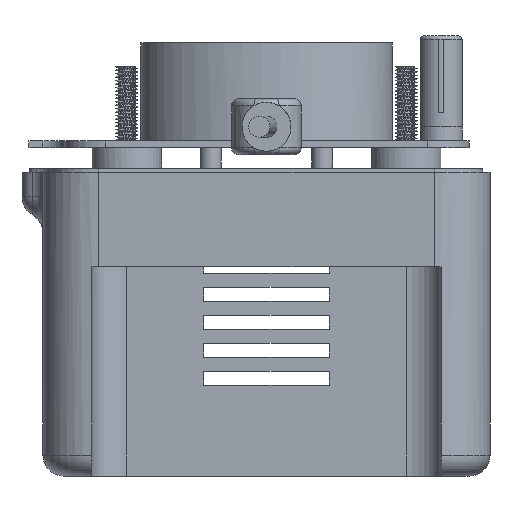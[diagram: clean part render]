
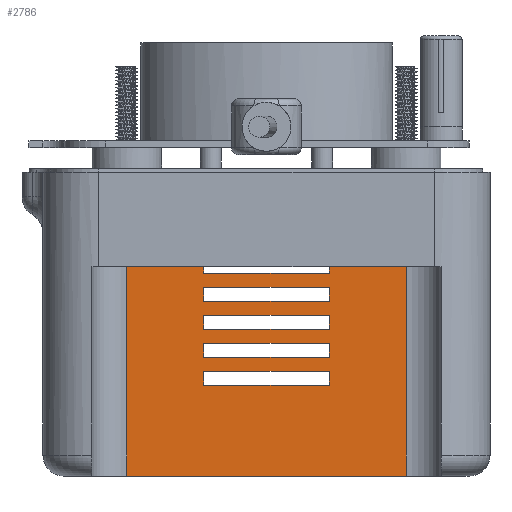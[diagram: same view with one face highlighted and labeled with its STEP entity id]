
A CAD part, left-side view. The second image highlights one B-rep face of the part: STEP entity #2786.
In plain terms, the highlighted planar face has unit normal (-1, 0, 0).
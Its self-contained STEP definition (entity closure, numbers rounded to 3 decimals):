
#2786=ADVANCED_FACE('',(#3652,#3653,#3654,#3655,#3656),#3331,.F.);
#3331=PLANE('',#16253);
#3652=FACE_BOUND('',#4475,.T.);
#3653=FACE_BOUND('',#4476,.T.);
#3654=FACE_BOUND('',#4477,.T.);
#3655=FACE_BOUND('',#4478,.T.);
#3656=FACE_BOUND('',#4479,.T.);
#4475=EDGE_LOOP('',(#8385,#8386,#8387,#8388));
#4476=EDGE_LOOP('',(#8389,#8390,#8391,#8392));
#4477=EDGE_LOOP('',(#8393,#8394,#8395,#8396));
#4478=EDGE_LOOP('',(#8397,#8398,#8399,#8400));
#4479=EDGE_LOOP('',(#8401,#8402,#8403,#8404,#8405,#8406,#8407,#8408));
#8385=ORIENTED_EDGE('',*,*,#12316,.F.);
#8386=ORIENTED_EDGE('',*,*,#12317,.F.);
#8387=ORIENTED_EDGE('',*,*,#12318,.F.);
#8388=ORIENTED_EDGE('',*,*,#12319,.F.);
#8389=ORIENTED_EDGE('',*,*,#12320,.F.);
#8390=ORIENTED_EDGE('',*,*,#12321,.F.);
#8391=ORIENTED_EDGE('',*,*,#12322,.F.);
#8392=ORIENTED_EDGE('',*,*,#12323,.F.);
#8393=ORIENTED_EDGE('',*,*,#12324,.F.);
#8394=ORIENTED_EDGE('',*,*,#12325,.F.);
#8395=ORIENTED_EDGE('',*,*,#12326,.F.);
#8396=ORIENTED_EDGE('',*,*,#12327,.F.);
#8397=ORIENTED_EDGE('',*,*,#12328,.F.);
#8398=ORIENTED_EDGE('',*,*,#12329,.F.);
#8399=ORIENTED_EDGE('',*,*,#12330,.F.);
#8400=ORIENTED_EDGE('',*,*,#12331,.F.);
#8401=ORIENTED_EDGE('',*,*,#12332,.F.);
#8402=ORIENTED_EDGE('',*,*,#12333,.T.);
#8403=ORIENTED_EDGE('',*,*,#12334,.T.);
#8404=ORIENTED_EDGE('',*,*,#12283,.F.);
#8405=ORIENTED_EDGE('',*,*,#12335,.T.);
#8406=ORIENTED_EDGE('',*,*,#12336,.T.);
#8407=ORIENTED_EDGE('',*,*,#12337,.F.);
#8408=ORIENTED_EDGE('',*,*,#12338,.F.);
#10414=VERTEX_POINT('',#59091);
#10415=VERTEX_POINT('',#59093);
#10445=VERTEX_POINT('',#59161);
#10446=VERTEX_POINT('',#59162);
#10447=VERTEX_POINT('',#59164);
#10448=VERTEX_POINT('',#59166);
#10449=VERTEX_POINT('',#59169);
#10450=VERTEX_POINT('',#59170);
#10451=VERTEX_POINT('',#59172);
#10452=VERTEX_POINT('',#59174);
#10453=VERTEX_POINT('',#59177);
#10454=VERTEX_POINT('',#59178);
#10455=VERTEX_POINT('',#59180);
#10456=VERTEX_POINT('',#59182);
#10457=VERTEX_POINT('',#59185);
#10458=VERTEX_POINT('',#59186);
#10459=VERTEX_POINT('',#59188);
#10460=VERTEX_POINT('',#59190);
#10461=VERTEX_POINT('',#59193);
#10462=VERTEX_POINT('',#59194);
#10463=VERTEX_POINT('',#59196);
#10464=VERTEX_POINT('',#59199);
#10465=VERTEX_POINT('',#59201);
#10466=VERTEX_POINT('',#59203);
#12283=EDGE_CURVE('',#10414,#10415,#13611,.T.);
#12316=EDGE_CURVE('',#10445,#10446,#13633,.T.);
#12317=EDGE_CURVE('',#10447,#10445,#13634,.T.);
#12318=EDGE_CURVE('',#10448,#10447,#13635,.T.);
#12319=EDGE_CURVE('',#10446,#10448,#13636,.T.);
#12320=EDGE_CURVE('',#10449,#10450,#13637,.T.);
#12321=EDGE_CURVE('',#10451,#10449,#13638,.T.);
#12322=EDGE_CURVE('',#10452,#10451,#13639,.T.);
#12323=EDGE_CURVE('',#10450,#10452,#13640,.T.);
#12324=EDGE_CURVE('',#10453,#10454,#13641,.T.);
#12325=EDGE_CURVE('',#10455,#10453,#13642,.T.);
#12326=EDGE_CURVE('',#10456,#10455,#13643,.T.);
#12327=EDGE_CURVE('',#10454,#10456,#13644,.T.);
#12328=EDGE_CURVE('',#10457,#10458,#13645,.T.);
#12329=EDGE_CURVE('',#10459,#10457,#13646,.T.);
#12330=EDGE_CURVE('',#10460,#10459,#13647,.T.);
#12331=EDGE_CURVE('',#10458,#10460,#13648,.T.);
#12332=EDGE_CURVE('',#10461,#10462,#13649,.T.);
#12333=EDGE_CURVE('',#10461,#10463,#13650,.T.);
#12334=EDGE_CURVE('',#10463,#10415,#13651,.T.);
#12335=EDGE_CURVE('',#10414,#10464,#13652,.T.);
#12336=EDGE_CURVE('',#10464,#10465,#13653,.T.);
#12337=EDGE_CURVE('',#10466,#10465,#13654,.T.);
#12338=EDGE_CURVE('',#10462,#10466,#13655,.T.);
#13611=LINE('',#59092,#14829);
#13633=LINE('',#59160,#14851);
#13634=LINE('',#59163,#14852);
#13635=LINE('',#59165,#14853);
#13636=LINE('',#59167,#14854);
#13637=LINE('',#59168,#14855);
#13638=LINE('',#59171,#14856);
#13639=LINE('',#59173,#14857);
#13640=LINE('',#59175,#14858);
#13641=LINE('',#59176,#14859);
#13642=LINE('',#59179,#14860);
#13643=LINE('',#59181,#14861);
#13644=LINE('',#59183,#14862);
#13645=LINE('',#59184,#14863);
#13646=LINE('',#59187,#14864);
#13647=LINE('',#59189,#14865);
#13648=LINE('',#59191,#14866);
#13649=LINE('',#59192,#14867);
#13650=LINE('',#59195,#14868);
#13651=LINE('',#59197,#14869);
#13652=LINE('',#59198,#14870);
#13653=LINE('',#59200,#14871);
#13654=LINE('',#59202,#14872);
#13655=LINE('',#59204,#14873);
#14829=VECTOR('',#19629,1.);
#14851=VECTOR('',#19683,1.);
#14852=VECTOR('',#19684,1.);
#14853=VECTOR('',#19685,1.);
#14854=VECTOR('',#19686,1.);
#14855=VECTOR('',#19687,1.);
#14856=VECTOR('',#19688,1.);
#14857=VECTOR('',#19689,1.);
#14858=VECTOR('',#19690,1.);
#14859=VECTOR('',#19691,1.);
#14860=VECTOR('',#19692,1.);
#14861=VECTOR('',#19693,1.);
#14862=VECTOR('',#19694,1.);
#14863=VECTOR('',#19695,1.);
#14864=VECTOR('',#19696,1.);
#14865=VECTOR('',#19697,1.);
#14866=VECTOR('',#19698,1.);
#14867=VECTOR('',#19699,1.);
#14868=VECTOR('',#19700,1.);
#14869=VECTOR('',#19701,1.);
#14870=VECTOR('',#19702,1.);
#14871=VECTOR('',#19703,1.);
#14872=VECTOR('',#19704,1.);
#14873=VECTOR('',#19705,1.);
#16253=AXIS2_PLACEMENT_3D('',#59205,#19706,#19707);
#19629=DIRECTION('',(0.,1.,0.));
#19683=DIRECTION('',(0.,0.,1.));
#19684=DIRECTION('',(0.,-1.,0.));
#19685=DIRECTION('',(0.,0.,-1.));
#19686=DIRECTION('',(0.,1.,0.));
#19687=DIRECTION('',(0.,1.,0.));
#19688=DIRECTION('',(0.,0.,1.));
#19689=DIRECTION('',(0.,-1.,0.));
#19690=DIRECTION('',(0.,0.,-1.));
#19691=DIRECTION('',(0.,1.,0.));
#19692=DIRECTION('',(0.,0.,1.));
#19693=DIRECTION('',(0.,-1.,0.));
#19694=DIRECTION('',(0.,0.,-1.));
#19695=DIRECTION('',(0.,1.,0.));
#19696=DIRECTION('',(0.,0.,1.));
#19697=DIRECTION('',(0.,-1.,0.));
#19698=DIRECTION('',(0.,0.,-1.));
#19699=DIRECTION('',(0.,0.,-1.));
#19700=DIRECTION('',(0.,1.,0.));
#19701=DIRECTION('',(0.,0.,-1.));
#19702=DIRECTION('',(0.,0.,1.));
#19703=DIRECTION('',(0.,1.,0.));
#19704=DIRECTION('',(0.,0.,1.));
#19705=DIRECTION('',(0.,-1.,0.));
#19706=DIRECTION('',(1.,0.,0.));
#19707=DIRECTION('',(0.,-1.,0.));
#59091=CARTESIAN_POINT('',(-15.,-20.,-17.));
#59092=CARTESIAN_POINT('',(-15.,32.,-17.));
#59093=CARTESIAN_POINT('',(-15.,20.,-17.));
#59160=CARTESIAN_POINT('',(-15.,-9.,-6.));
#59161=CARTESIAN_POINT('',(-15.,-9.,8.));
#59162=CARTESIAN_POINT('',(-15.,-9.,10.));
#59163=CARTESIAN_POINT('',(-15.,25.,8.));
#59164=CARTESIAN_POINT('',(-15.,9.,8.));
#59165=CARTESIAN_POINT('',(-15.,9.,-6.));
#59166=CARTESIAN_POINT('',(-15.,9.,10.));
#59167=CARTESIAN_POINT('',(-15.,25.,10.));
#59168=CARTESIAN_POINT('',(-15.,25.,2.));
#59169=CARTESIAN_POINT('',(-15.,-9.,2.));
#59170=CARTESIAN_POINT('',(-15.,9.,2.));
#59171=CARTESIAN_POINT('',(-15.,-9.,-6.));
#59172=CARTESIAN_POINT('',(-15.,-9.,0.));
#59173=CARTESIAN_POINT('',(-15.,25.,0.));
#59174=CARTESIAN_POINT('',(-15.,9.,0.));
#59175=CARTESIAN_POINT('',(-15.,9.,-6.));
#59176=CARTESIAN_POINT('',(-15.,25.,-2.));
#59177=CARTESIAN_POINT('',(-15.,-9.,-2.));
#59178=CARTESIAN_POINT('',(-15.,9.,-2.));
#59179=CARTESIAN_POINT('',(-15.,-9.,-6.));
#59180=CARTESIAN_POINT('',(-15.,-9.,-4.));
#59181=CARTESIAN_POINT('',(-15.,25.,-4.));
#59182=CARTESIAN_POINT('',(-15.,9.,-4.));
#59183=CARTESIAN_POINT('',(-15.,9.,-6.));
#59184=CARTESIAN_POINT('',(-15.,25.,6.));
#59185=CARTESIAN_POINT('',(-15.,-9.,6.));
#59186=CARTESIAN_POINT('',(-15.,9.,6.));
#59187=CARTESIAN_POINT('',(-15.,-9.,-6.));
#59188=CARTESIAN_POINT('',(-15.,-9.,4.));
#59189=CARTESIAN_POINT('',(-15.,25.,4.));
#59190=CARTESIAN_POINT('',(-15.,9.,4.));
#59191=CARTESIAN_POINT('',(-15.,9.,-6.));
#59192=CARTESIAN_POINT('',(-15.,9.,-6.));
#59193=CARTESIAN_POINT('',(-15.,9.,13.));
#59194=CARTESIAN_POINT('',(-15.,9.,12.));
#59195=CARTESIAN_POINT('',(-15.,32.,13.));
#59196=CARTESIAN_POINT('',(-15.,20.,13.));
#59197=CARTESIAN_POINT('',(-15.,20.,13.));
#59198=CARTESIAN_POINT('',(-15.,-20.,-17.));
#59199=CARTESIAN_POINT('',(-15.,-20.,13.));
#59200=CARTESIAN_POINT('',(-15.,32.,13.));
#59201=CARTESIAN_POINT('',(-15.,-9.,13.));
#59202=CARTESIAN_POINT('',(-15.,-9.,-6.));
#59203=CARTESIAN_POINT('',(-15.,-9.,12.));
#59204=CARTESIAN_POINT('',(-15.,25.,12.));
#59205=CARTESIAN_POINT('',(-15.,25.,-6.));
